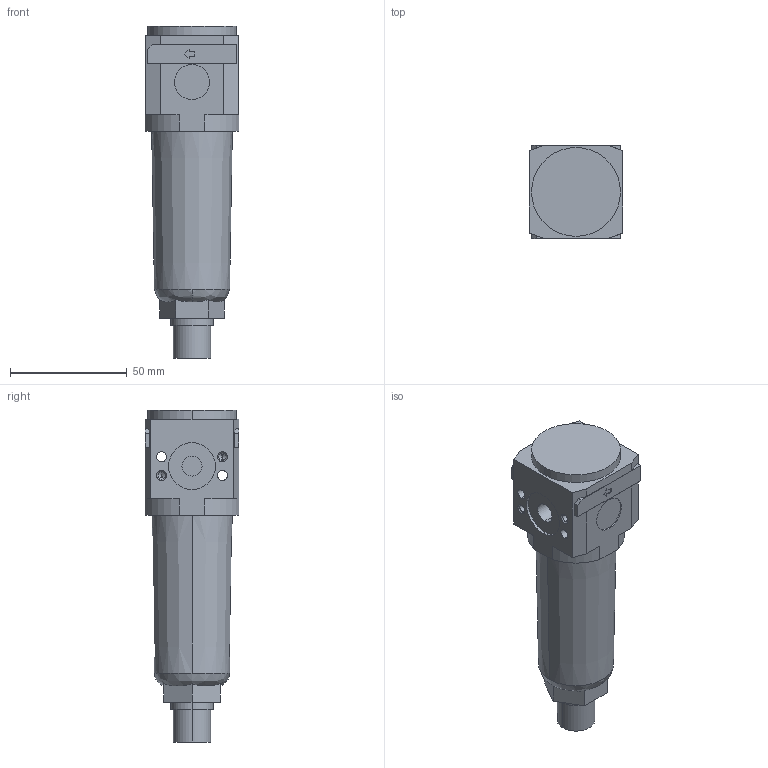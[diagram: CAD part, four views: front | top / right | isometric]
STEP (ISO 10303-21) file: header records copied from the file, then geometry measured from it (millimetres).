
FILE_DESCRIPTION((''),'2;1');
FILE_NAME('I:\DOC-EDP\Lib-3d\FRL\17101A_.stp','2003-06-16T14:42:36',('maffial1'),(''),'Autodesk Inventor 7','Autodesk Inventor 7','');
FILE_SCHEMA(('AUTOMOTIVE_DESIGN { 1 0 10303 214 1 1 1 1 }'));
Length unit declared in the file: millimetre
Products named in the file (1): 17101A_
Bounding box: 40 x 40 x 142 mm (x, y, z)
Volume: 131851.6 mm3; surface area: 24208.9 mm2
Topology: 1 solids, 3 shells, 148 faces, 368 edges, 236 vertices
Faces by surface type: bspline 57, plane 53, cylinder 28, cone 10
Entity records: 4795 total; most frequent: CARTESIAN_POINT 1390, ORIENTED_EDGE 720, DIRECTION 648, EDGE_CURVE 360, VERTEX_POINT 236, VECTOR 232, LINE 232, AXIS2_PLACEMENT_3D 208
